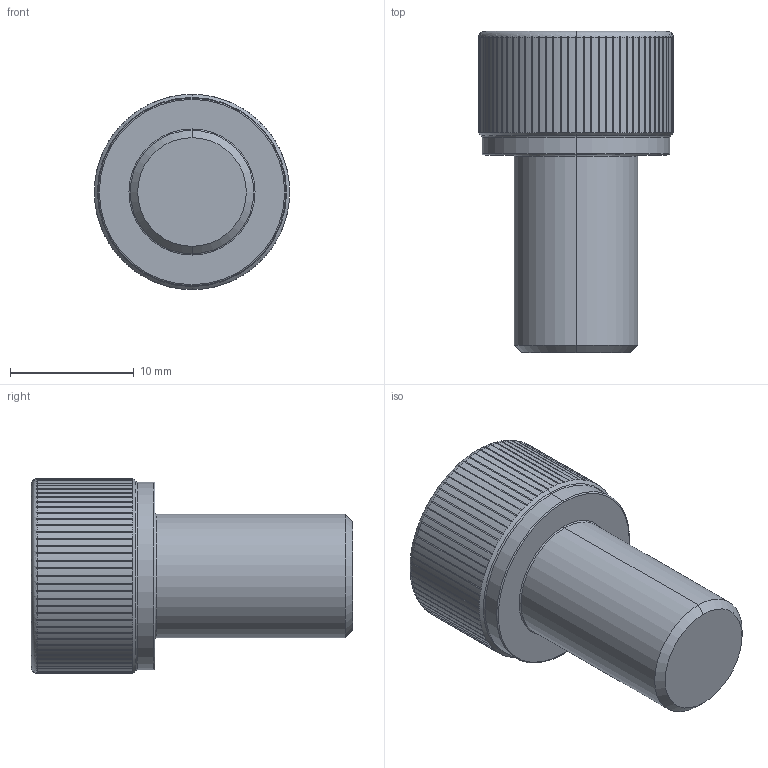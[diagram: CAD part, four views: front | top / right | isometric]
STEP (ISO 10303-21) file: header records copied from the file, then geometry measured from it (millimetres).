
FILE_DESCRIPTION (( 'STEP AP203' ), '1' );
FILE_NAME ('LGDT-304-M10x16.STEP', '2026-08-10T07:09:52', ( '' ), ( '' ), 'SwSTEP 2.0', 'SolidWorks 2020', '' );
FILE_SCHEMA (( 'CONFIG_CONTROL_DESIGN' ));
Length unit declared in the file: millimetre
Products named in the file (1): LGDT-304-M10x16
Bounding box: 15.8 x 26 x 15.8 mm (x, y, z)
Volume: 2851.7 mm3; surface area: 1519.7 mm2
Topology: 1 solids, 1 shells, 204 faces, 576 edges, 376 vertices
Faces by surface type: cylinder 175, cone 11, plane 10, torus 8
Entity records: 8367 total; most frequent: CARTESIAN_POINT 3208, ORIENTED_EDGE 1152, DIRECTION 988, EDGE_CURVE 576, AXIS2_PLACEMENT_3D 398, VERTEX_POINT 376, EDGE_LOOP 206, ADVANCED_FACE 204
